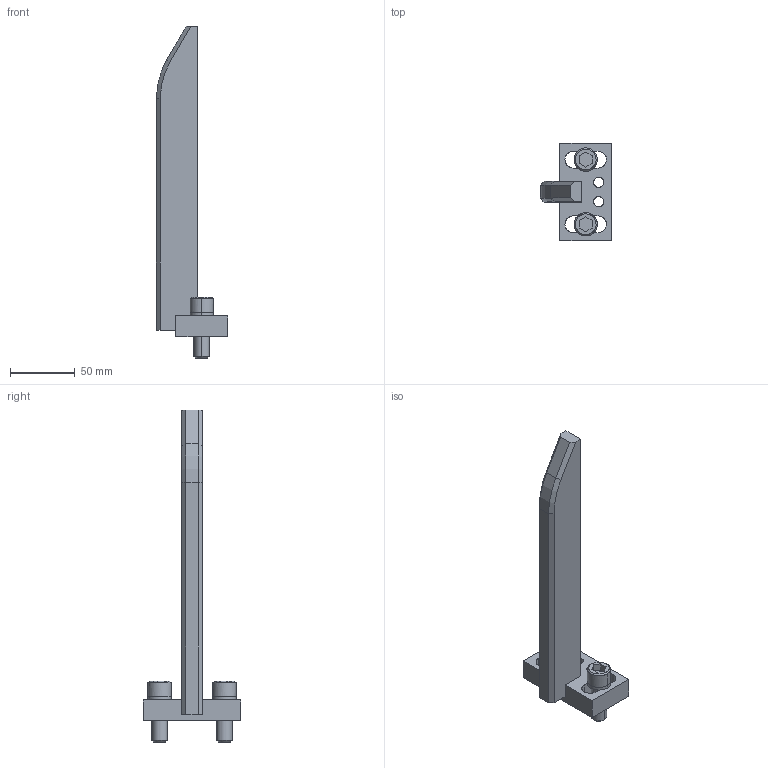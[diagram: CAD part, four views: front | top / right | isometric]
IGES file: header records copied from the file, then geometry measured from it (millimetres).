
Global section: file name: E:\UnigraphicsGraphicData\MISUMI_PRESS-PARTS\IGES\3d_ngna-240-40-m12_01516_r00.igs; native system: NX V5.0; preprocessor: UGS NX IGES V5.0; author: MISUMI; date: 20110105.162043; units: millimetre
Bounding box: 55 x 75 x 256.5 mm (x, y, z)
Surface area: 39852.9 mm2 (no closed solid volume)
Topology: 0 solids, 0 shells, 104 faces, 666 edges, 666 vertices
Faces by surface type: bspline 104
